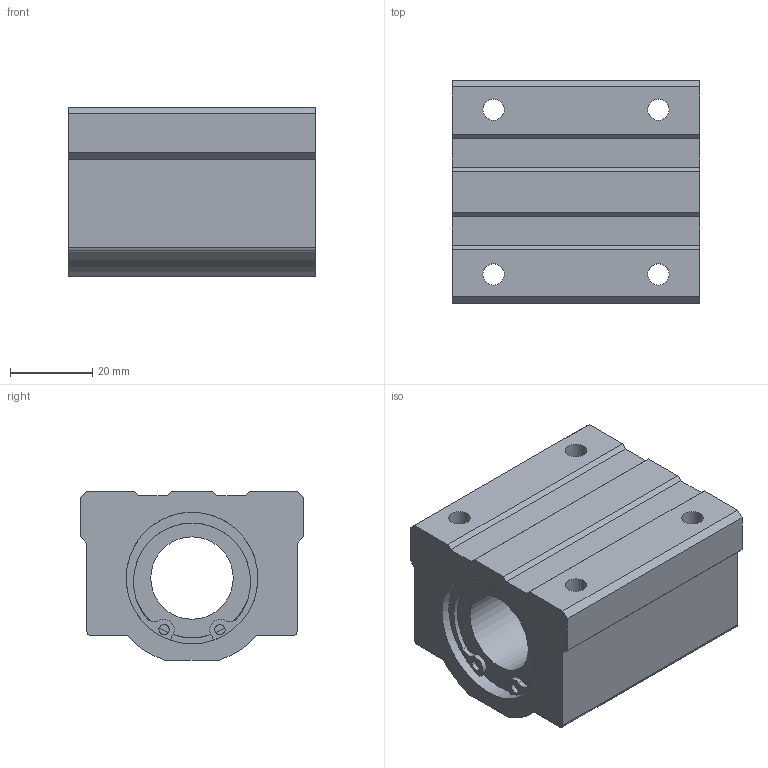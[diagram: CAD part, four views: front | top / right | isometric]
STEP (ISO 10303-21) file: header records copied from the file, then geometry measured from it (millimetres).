
FILE_DESCRIPTION((''),'2;1');
FILE_NAME('D:\製品 (図面)\カタログ用3D\メンテナンスフリー関連\STEP形式\LH-MF\LH20MF.stp','2010-06-01T16:09:27',('Tsuchiya'),(''),'Autodesk Inventor 10','Autodesk Inventor 10','');
FILE_SCHEMA(('AUTOMOTIVE_DESIGN { 1 0 10303 214 1 1 1 1 }'));
Length unit declared in the file: millimetre
Products named in the file (1): LH20MF
Bounding box: 60 x 54 x 41 mm (x, y, z)
Volume: 91524.8 mm3; surface area: 21373.7 mm2
Topology: 1 solids, 3 shells, 81 faces, 215 edges, 138 vertices
Faces by surface type: plane 44, cylinder 20, bspline 17
Full cylindrical faces by diameter (mm): 2.5 x2, 20 x1, 29 x2, 30.3 x2, 32 x4
Entity records: 2548 total; most frequent: CARTESIAN_POINT 599, DIRECTION 410, ORIENTED_EDGE 372, EDGE_CURVE 186, AXIS2_PLACEMENT_3D 159, VERTEX_POINT 126, EDGE_LOOP 118, CIRCLE 94
